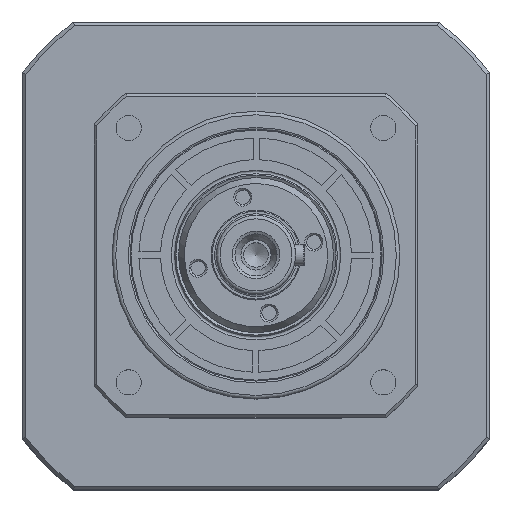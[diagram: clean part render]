
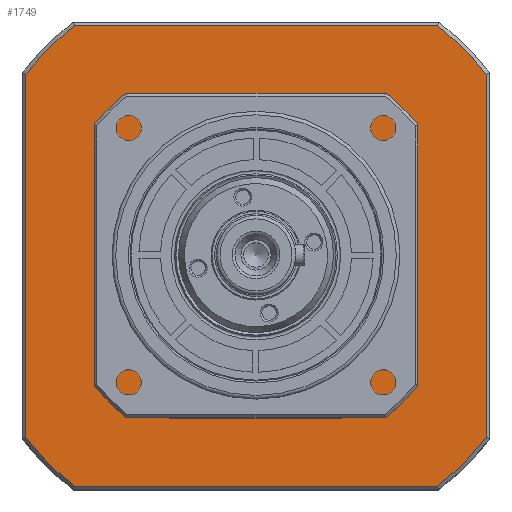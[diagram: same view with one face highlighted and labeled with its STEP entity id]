
A CAD part, top view. The second image highlights one B-rep face of the part: STEP entity #1749.
In plain terms, the highlighted planar face has unit normal (0, 0, 1).
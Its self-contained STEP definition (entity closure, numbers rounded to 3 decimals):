
#678=FACE_BOUND('',#2891,.T.);
#679=FACE_BOUND('',#2892,.T.);
#1291=CIRCLE('',#8179,81.5);
#1292=CIRCLE('',#8180,81.5);
#1293=CIRCLE('',#8181,81.5);
#1294=CIRCLE('',#8182,81.5);
#1295=CIRCLE('',#8183,40.);
#1749=ADVANCED_FACE('',(#678,#679),#1973,.T.);
#1973=PLANE('',#8184);
#2891=EDGE_LOOP('',(#4722,#4723,#4724,#4725,#4726,#4727,#4728,#4729));
#2892=EDGE_LOOP('',(#4730));
#4722=ORIENTED_EDGE('',*,*,#6429,.T.);
#4723=ORIENTED_EDGE('',*,*,#6430,.T.);
#4724=ORIENTED_EDGE('',*,*,#6431,.T.);
#4725=ORIENTED_EDGE('',*,*,#6432,.T.);
#4726=ORIENTED_EDGE('',*,*,#6433,.T.);
#4727=ORIENTED_EDGE('',*,*,#6434,.T.);
#4728=ORIENTED_EDGE('',*,*,#6435,.T.);
#4729=ORIENTED_EDGE('',*,*,#6436,.T.);
#4730=ORIENTED_EDGE('',*,*,#6437,.T.);
#5501=VERTEX_POINT('',#12726);
#5502=VERTEX_POINT('',#12727);
#5503=VERTEX_POINT('',#12729);
#5504=VERTEX_POINT('',#12731);
#5505=VERTEX_POINT('',#12733);
#5506=VERTEX_POINT('',#12735);
#5507=VERTEX_POINT('',#12737);
#5508=VERTEX_POINT('',#12739);
#5509=VERTEX_POINT('',#12742);
#6429=EDGE_CURVE('',#5501,#5502,#1291,.T.);
#6430=EDGE_CURVE('',#5502,#5503,#6908,.T.);
#6431=EDGE_CURVE('',#5503,#5504,#1292,.T.);
#6432=EDGE_CURVE('',#5504,#5505,#6909,.T.);
#6433=EDGE_CURVE('',#5505,#5506,#1293,.T.);
#6434=EDGE_CURVE('',#5506,#5507,#6910,.T.);
#6435=EDGE_CURVE('',#5507,#5508,#1294,.T.);
#6436=EDGE_CURVE('',#5508,#5501,#6911,.T.);
#6437=EDGE_CURVE('',#5509,#5509,#1295,.T.);
#6908=LINE('',#12728,#7343);
#6909=LINE('',#12732,#7344);
#6910=LINE('',#12736,#7345);
#6911=LINE('',#12740,#7346);
#7343=VECTOR('',#10344,1.);
#7344=VECTOR('',#10347,1.);
#7345=VECTOR('',#10350,1.);
#7346=VECTOR('',#10353,1.);
#8179=AXIS2_PLACEMENT_3D('',#12725,#10342,#10343);
#8180=AXIS2_PLACEMENT_3D('',#12730,#10345,#10346);
#8181=AXIS2_PLACEMENT_3D('',#12734,#10348,#10349);
#8182=AXIS2_PLACEMENT_3D('',#12738,#10351,#10352);
#8183=AXIS2_PLACEMENT_3D('',#12741,#10354,#10355);
#8184=AXIS2_PLACEMENT_3D('',#12743,#10356,#10357);
#10342=DIRECTION('',(0.,0.,1.));
#10343=DIRECTION('',(1.,0.,0.));
#10344=DIRECTION('',(0.,1.,0.));
#10345=DIRECTION('',(0.,0.,1.));
#10346=DIRECTION('',(1.,0.,0.));
#10347=DIRECTION('',(-1.,0.,0.));
#10348=DIRECTION('',(0.,0.,1.));
#10349=DIRECTION('',(1.,0.,0.));
#10350=DIRECTION('',(0.,-1.,0.));
#10351=DIRECTION('',(0.,0.,1.));
#10352=DIRECTION('',(1.,0.,0.));
#10353=DIRECTION('',(1.,0.,0.));
#10354=DIRECTION('',(0.,0.,-1.));
#10355=DIRECTION('',(1.,0.,0.));
#10356=DIRECTION('',(0.,0.,1.));
#10357=DIRECTION('',(1.,0.,0.));
#12725=CARTESIAN_POINT('',(0.,0.,-12.35));
#12726=CARTESIAN_POINT('',(50.46,-64.,-12.35));
#12727=CARTESIAN_POINT('',(64.,-50.46,-12.35));
#12728=CARTESIAN_POINT('',(64.,50.806,-12.35));
#12729=CARTESIAN_POINT('',(64.,50.46,-12.35));
#12730=CARTESIAN_POINT('',(0.,0.,-12.35));
#12731=CARTESIAN_POINT('',(50.46,64.,-12.35));
#12732=CARTESIAN_POINT('',(-50.806,64.,-12.35));
#12733=CARTESIAN_POINT('',(-50.46,64.,-12.35));
#12734=CARTESIAN_POINT('',(0.,0.,-12.35));
#12735=CARTESIAN_POINT('',(-64.,50.46,-12.35));
#12736=CARTESIAN_POINT('',(-64.,-50.806,-12.35));
#12737=CARTESIAN_POINT('',(-64.,-50.46,-12.35));
#12738=CARTESIAN_POINT('',(0.,0.,-12.35));
#12739=CARTESIAN_POINT('',(-50.46,-64.,-12.35));
#12740=CARTESIAN_POINT('',(50.806,-64.,-12.35));
#12741=CARTESIAN_POINT('',(0.,0.,-12.35));
#12742=CARTESIAN_POINT('',(40.,0.,-12.35));
#12743=CARTESIAN_POINT('',(0.,0.,-12.35));
